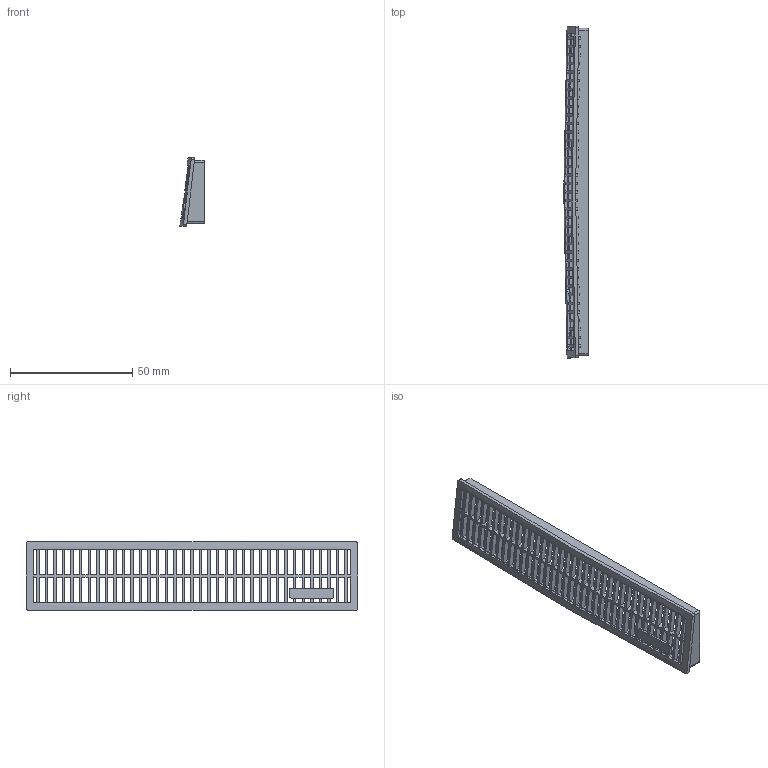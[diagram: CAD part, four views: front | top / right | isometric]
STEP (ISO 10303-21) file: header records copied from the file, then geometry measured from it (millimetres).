
FILE_DESCRIPTION(('Open CASCADE Model'),'2;1');
FILE_NAME('Open CASCADE Shape Model','2026-10-28T00:37:32',('Author'),( 'Open CASCADE'),'Open CASCADE STEP processor 7.8','Open CASCADE 7.8' ,'Unknown');
FILE_SCHEMA(('AUTOMOTIVE_DESIGN { 1 0 10303 214 1 1 1 1 }'));
Products named in the file (1): Open CASCADE STEP translator 7.8 1
Bounding box: 10 x 135.7 x 28 mm (x, y, z)
Volume: 7241.7 mm3; surface area: 12185 mm2
Topology: 1 solids, 1 shells, 439 faces, 1918 edges, 1324 vertices
Faces by surface type: plane 399, cylinder 24, bspline 16
Entity records: 167549 total; most frequent: CARTESIAN_POINT 139279, B_SPLINE_CURVE_WITH_KNOTS 4358, ORIENTED_EDGE 3836, PCURVE 3836, DEFINITIONAL_REPRESENTATION 3836, DIRECTION 2252, EDGE_CURVE 1918, SURFACE_CURVE 1918
